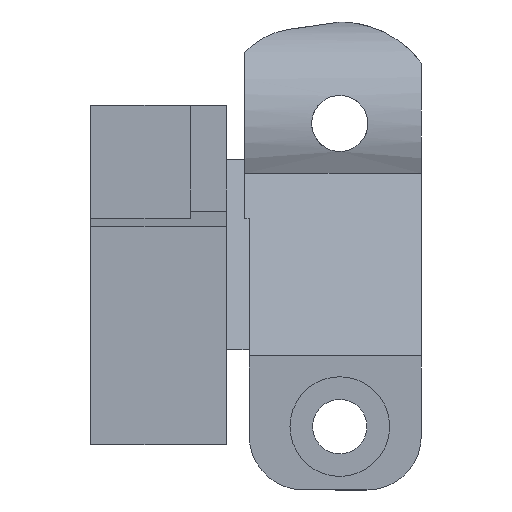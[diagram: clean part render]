
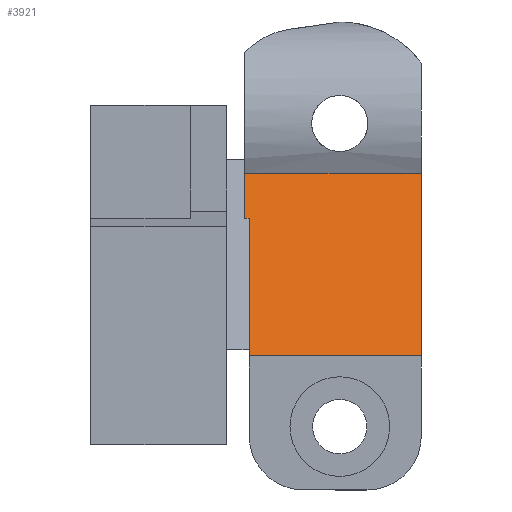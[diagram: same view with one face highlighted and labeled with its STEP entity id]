
A CAD part, left-side view. The second image highlights one B-rep face of the part: STEP entity #3921.
In plain terms, the highlighted planar face has unit normal (-0.967, 0, 0.255).
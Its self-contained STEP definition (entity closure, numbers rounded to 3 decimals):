
#85 = CARTESIAN_POINT ( 'NONE',  ( -15.07, 10.5, -36.85 ) ) ;
#156 = DIRECTION ( 'NONE',  ( 0., 1., 0. ) ) ;
#185 = EDGE_CURVE ( 'NONE', #2267, #1396, #408, .T. ) ;
#204 = DIRECTION ( 'NONE',  ( -0.255, 0., -0.967 ) ) ;
#329 = VECTOR ( 'NONE', #3844, 1000. ) ;
#361 = DIRECTION ( 'NONE',  ( 0.255, 0., 0.967 ) ) ;
#408 = LINE ( 'NONE', #3588, #2701 ) ;
#422 = ORIENTED_EDGE ( 'NONE', *, *, #185, .F. ) ;
#446 = CARTESIAN_POINT ( 'NONE',  ( -11.055, 10.5, -21.65 ) ) ;
#707 = EDGE_LOOP ( 'NONE', ( #1764, #850, #1735, #3600, #422, #3891 ) ) ;
#718 = PLANE ( 'NONE',  #1929 ) ;
#742 = DIRECTION ( 'NONE',  ( 0., -1., 0. ) ) ;
#759 = CARTESIAN_POINT ( 'NONE',  ( -9.75, -9., -16.712 ) ) ;
#772 = VECTOR ( 'NONE', #156, 1000. ) ;
#850 = ORIENTED_EDGE ( 'NONE', *, *, #3474, .T. ) ;
#1022 = LINE ( 'NONE', #3427, #1601 ) ;
#1132 = EDGE_CURVE ( 'NONE', #2336, #1396, #1022, .T. ) ;
#1148 = VERTEX_POINT ( 'NONE', #2430 ) ;
#1150 = FACE_OUTER_BOUND ( 'NONE', #707, .T. ) ;
#1224 = VECTOR ( 'NONE', #204, 1000. ) ;
#1396 = VERTEX_POINT ( 'NONE', #3968 ) ;
#1519 = CARTESIAN_POINT ( 'NONE',  ( -11.055, 10., -21.65 ) ) ;
#1540 = LINE ( 'NONE', #2495, #1224 ) ;
#1601 = VECTOR ( 'NONE', #2196, 1000. ) ;
#1735 = ORIENTED_EDGE ( 'NONE', *, *, #4098, .T. ) ;
#1764 = ORIENTED_EDGE ( 'NONE', *, *, #2872, .T. ) ;
#1929 = AXIS2_PLACEMENT_3D ( 'NONE', #85, #2407, #361 ) ;
#2196 = DIRECTION ( 'NONE',  ( 0., -1., 0. ) ) ;
#2267 = VERTEX_POINT ( 'NONE', #759 ) ;
#2336 = VERTEX_POINT ( 'NONE', #3471 ) ;
#2368 = LINE ( 'NONE', #446, #4078 ) ;
#2407 = DIRECTION ( 'NONE',  ( -0.967, 0., 0.255 ) ) ;
#2430 = CARTESIAN_POINT ( 'NONE',  ( -11.055, 10.5, -21.65 ) ) ;
#2495 = CARTESIAN_POINT ( 'NONE',  ( -9.75, 10.5, -16.712 ) ) ;
#2701 = VECTOR ( 'NONE', #3640, 1000. ) ;
#2815 = LINE ( 'NONE', #1519, #329 ) ;
#2872 = EDGE_CURVE ( 'NONE', #3755, #1148, #1540, .T. ) ;
#3295 = VERTEX_POINT ( 'NONE', #3675 ) ;
#3316 = CARTESIAN_POINT ( 'NONE',  ( -9.75, 10.5, -16.712 ) ) ;
#3427 = CARTESIAN_POINT ( 'NONE',  ( -15.07, 10.5, -36.85 ) ) ;
#3460 = CARTESIAN_POINT ( 'NONE',  ( -9.75, 10.5, -16.712 ) ) ;
#3471 = CARTESIAN_POINT ( 'NONE',  ( -15.07, 10., -36.85 ) ) ;
#3474 = EDGE_CURVE ( 'NONE', #1148, #3295, #2368, .T. ) ;
#3588 = CARTESIAN_POINT ( 'NONE',  ( -9.75, -9., -16.712 ) ) ;
#3600 = ORIENTED_EDGE ( 'NONE', *, *, #1132, .T. ) ;
#3640 = DIRECTION ( 'NONE',  ( -0.255, 0., -0.967 ) ) ;
#3654 = LINE ( 'NONE', #3460, #772 ) ;
#3675 = CARTESIAN_POINT ( 'NONE',  ( -11.055, 10., -21.65 ) ) ;
#3755 = VERTEX_POINT ( 'NONE', #3316 ) ;
#3844 = DIRECTION ( 'NONE',  ( -0.255, 0., -0.967 ) ) ;
#3891 = ORIENTED_EDGE ( 'NONE', *, *, #4188, .T. ) ;
#3921 = ADVANCED_FACE ( 'NONE', ( #1150 ), #718, .T. ) ;
#3968 = CARTESIAN_POINT ( 'NONE',  ( -15.07, -9., -36.85 ) ) ;
#4078 = VECTOR ( 'NONE', #742, 1000. ) ;
#4098 = EDGE_CURVE ( 'NONE', #3295, #2336, #2815, .T. ) ;
#4188 = EDGE_CURVE ( 'NONE', #2267, #3755, #3654, .T. ) ;
